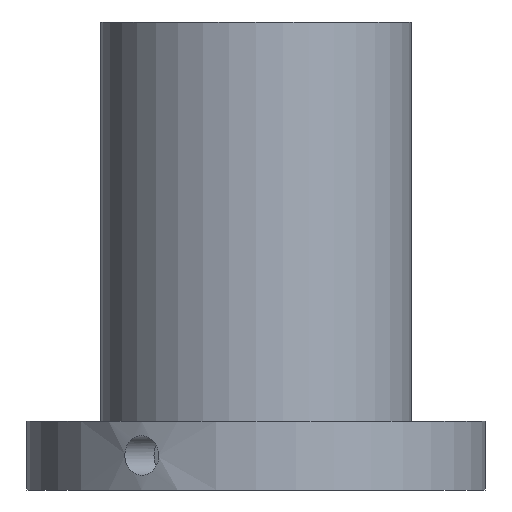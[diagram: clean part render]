
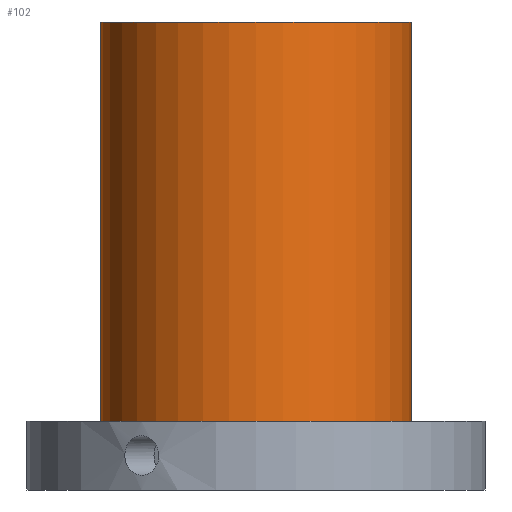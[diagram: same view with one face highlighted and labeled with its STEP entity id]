
A CAD part, front view. The second image highlights one B-rep face of the part: STEP entity #102.
In plain terms, the highlighted cylindrical face has radius 31.5 mm (diameter 63 mm), a full revolution.
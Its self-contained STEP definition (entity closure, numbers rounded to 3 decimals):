
#102=ADVANCED_FACE('',(#136,#137),#119,.T.);
#119=CYLINDRICAL_SURFACE('',#371,31.5);
#136=FACE_BOUND('',#188,.T.);
#137=FACE_BOUND('',#189,.T.);
#188=EDGE_LOOP('',(#240));
#189=EDGE_LOOP('',(#241));
#240=ORIENTED_EDGE('',*,*,#318,.F.);
#241=ORIENTED_EDGE('',*,*,#319,.T.);
#292=VERTEX_POINT('',#557);
#293=VERTEX_POINT('',#559);
#318=EDGE_CURVE('',#292,#292,#343,.T.);
#319=EDGE_CURVE('',#293,#293,#344,.T.);
#343=CIRCLE('',#369,31.5);
#344=CIRCLE('',#370,31.5);
#369=AXIS2_PLACEMENT_3D('',#556,#415,#416);
#370=AXIS2_PLACEMENT_3D('',#558,#417,#418);
#371=AXIS2_PLACEMENT_3D('',#560,#419,#420);
#415=DIRECTION('',(0.,0.,-1.));
#416=DIRECTION('',(1.,0.,0.));
#417=DIRECTION('',(0.,0.,-1.));
#418=DIRECTION('',(1.,0.,0.));
#419=DIRECTION('',(0.,0.,-1.));
#420=DIRECTION('',(-1.,0.,0.));
#556=CARTESIAN_POINT('',(0.,0.,14.));
#557=CARTESIAN_POINT('',(31.5,0.,14.));
#558=CARTESIAN_POINT('',(0.,0.,95.));
#559=CARTESIAN_POINT('',(31.5,0.,95.));
#560=CARTESIAN_POINT('',(0.,0.,95.));
